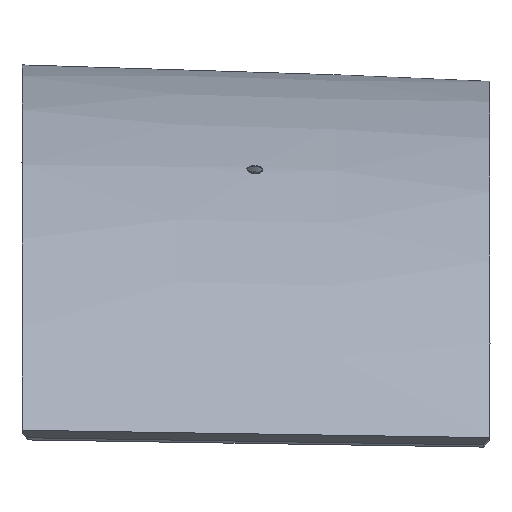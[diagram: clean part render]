
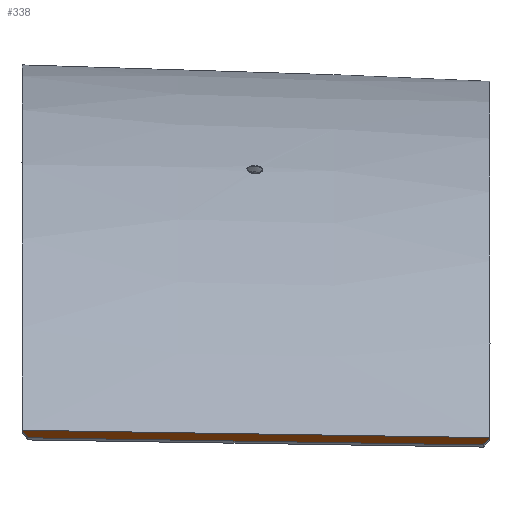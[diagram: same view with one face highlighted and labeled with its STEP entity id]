
A CAD part, top view. The second image highlights one B-rep face of the part: STEP entity #338.
In plain terms, the highlighted free-form (B-spline) face has degree [1, 3] with [2, 4] control points.
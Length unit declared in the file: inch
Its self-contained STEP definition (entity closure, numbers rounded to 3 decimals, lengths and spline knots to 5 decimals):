
#31 = CARTESIAN_POINT ( 'NONE',  ( -0.0077, -101.56996, 31.79416 ) ) ;
#125 = CARTESIAN_POINT ( 'NONE',  ( -0.34176, -101.94102, 31.15406 ) ) ;
#155 = CARTESIAN_POINT ( 'NONE',  ( -15.94792, -101.6959, 31.57863 ) ) ;
#227 = CARTESIAN_POINT ( 'NONE',  ( -15.92437, -101.31997, 32.22719 ) ) ;
#338 = ADVANCED_FACE ( 'NONE', ( #1504 ), #1793, .T. ) ;
#347 = EDGE_CURVE ( 'NONE', #2243, #1248, #1203, .T. ) ;
#393 = CARTESIAN_POINT ( 'NONE',  ( -8.09309, -101.81927, 31.36494 ) ) ;
#427 = CARTESIAN_POINT ( 'NONE',  ( -15.84441, -101.69753, 31.57582 ) ) ;
#539 = CARTESIAN_POINT ( 'NONE',  ( -15.92437, -101.31997, 32.22719 ) ) ;
#624 = EDGE_LOOP ( 'NONE', ( #2228, #2191, #1712, #1840 ) ) ;
#631 = B_SPLINE_CURVE_WITH_KNOTS ( 'NONE', 3,
 ( #125, #910, #924, #1710 ),
 .UNSPECIFIED., .F., .F.,
 ( 4, 4 ),
 ( 0., 1. ),
 .UNSPECIFIED. ) ;
#788 = CARTESIAN_POINT ( 'NONE',  ( -23.59574, -101.57578, 31.78669 ) ) ;
#801 = CARTESIAN_POINT ( 'NONE',  ( -23.8827, -101.19498, 32.4437 ) ) ;
#910 = CARTESIAN_POINT ( 'NONE',  ( -0.23041, -101.81734, 31.36743 ) ) ;
#924 = CARTESIAN_POINT ( 'NONE',  ( -0.11905, -101.69365, 31.5808 ) ) ;
#925 = CARTESIAN_POINT ( 'NONE',  ( -0.0077, -101.56996, 31.79416 ) ) ;
#940 = CARTESIAN_POINT ( 'NONE',  ( -7.98958, -101.8209, 31.36212 ) ) ;
#1033 = CARTESIAN_POINT ( 'NONE',  ( -7.96603, -101.44497, 32.01068 ) ) ;
#1154 = CARTESIAN_POINT ( 'NONE',  ( -23.6914, -101.44885, 32.00569 ) ) ;
#1177 = CARTESIAN_POINT ( 'NONE',  ( -23.59574, -101.57578, 31.78669 ) ) ;
#1203 = B_SPLINE_CURVE_WITH_KNOTS ( 'NONE', 3,
 ( #1462, #227, #1033, #31 ),
 .UNSPECIFIED., .F., .F.,
 ( 4, 4 ),
 ( 0., 1. ),
 .UNSPECIFIED. ) ;
#1248 = VERTEX_POINT ( 'NONE', #1301 ) ;
#1301 = CARTESIAN_POINT ( 'NONE',  ( -0.0077, -101.56996, 31.79416 ) ) ;
#1341 = CARTESIAN_POINT ( 'NONE',  ( -23.59574, -101.57578, 31.78669 ) ) ;
#1462 = CARTESIAN_POINT ( 'NONE',  ( -23.8827, -101.19498, 32.4437 ) ) ;
#1504 = FACE_OUTER_BOUND ( 'NONE', #624, .T. ) ;
#1710 = CARTESIAN_POINT ( 'NONE',  ( -0.0077, -101.56996, 31.79416 ) ) ;
#1712 = ORIENTED_EDGE ( 'NONE', *, *, #1780, .T. ) ;
#1727 = CARTESIAN_POINT ( 'NONE',  ( -0.03125, -101.9459, 31.14562 ) ) ;
#1780 = EDGE_CURVE ( 'NONE', #1851, #2540, #2010, .T. ) ;
#1793 = B_SPLINE_SURFACE_WITH_KNOTS ( 'NONE', 1, 3, ( 
 ( #2473, #539, #1909, #925 ),
 ( #2502, #155, #940, #1727 ) ),
 .UNSPECIFIED., .F., .F., .F.,
 ( 2, 2 ),
 ( 4, 4 ),
 ( 0., 1. ),
 ( -0.30336, 0.30336 ),
 .UNSPECIFIED. ) ;
#1840 = ORIENTED_EDGE ( 'NONE', *, *, #2354, .T. ) ;
#1851 = VERTEX_POINT ( 'NONE', #1177 ) ;
#1909 = CARTESIAN_POINT ( 'NONE',  ( -7.96603, -101.44497, 32.01068 ) ) ;
#1923 = CARTESIAN_POINT ( 'NONE',  ( -23.78705, -101.32191, 32.2247 ) ) ;
#2010 = B_SPLINE_CURVE_WITH_KNOTS ( 'NONE', 3,
 ( #788, #427, #393, #2158 ),
 .UNSPECIFIED., .F., .F.,
 ( 4, 4 ),
 ( 0.01301, 0.98699 ),
 .UNSPECIFIED. ) ;
#2158 = CARTESIAN_POINT ( 'NONE',  ( -0.34176, -101.94102, 31.15406 ) ) ;
#2191 = ORIENTED_EDGE ( 'NONE', *, *, #2422, .T. ) ;
#2228 = ORIENTED_EDGE ( 'NONE', *, *, #347, .F. ) ;
#2243 = VERTEX_POINT ( 'NONE', #801 ) ;
#2255 = CARTESIAN_POINT ( 'NONE',  ( -0.34176, -101.94102, 31.15406 ) ) ;
#2282 = CARTESIAN_POINT ( 'NONE',  ( -23.8827, -101.19498, 32.4437 ) ) ;
#2354 = EDGE_CURVE ( 'NONE', #2540, #1248, #631, .T. ) ;
#2422 = EDGE_CURVE ( 'NONE', #2243, #1851, #2504, .T. ) ;
#2473 = CARTESIAN_POINT ( 'NONE',  ( -23.8827, -101.19498, 32.4437 ) ) ;
#2502 = CARTESIAN_POINT ( 'NONE',  ( -23.90625, -101.5709, 31.79514 ) ) ;
#2504 = B_SPLINE_CURVE_WITH_KNOTS ( 'NONE', 3,
 ( #2282, #1923, #1154, #1341 ),
 .UNSPECIFIED., .F., .F.,
 ( 4, 4 ),
 ( 0., 1. ),
 .UNSPECIFIED. ) ;
#2540 = VERTEX_POINT ( 'NONE', #2255 ) ;
